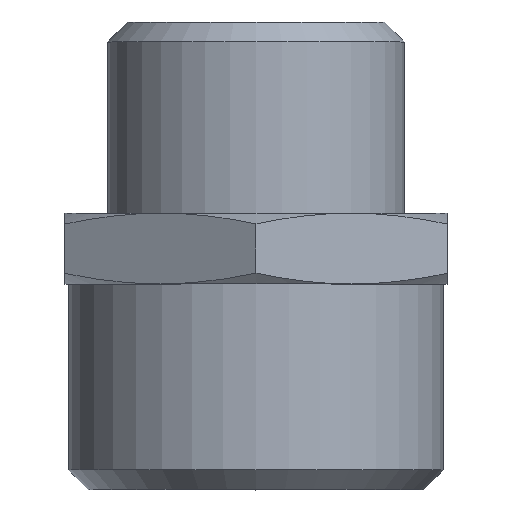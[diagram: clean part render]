
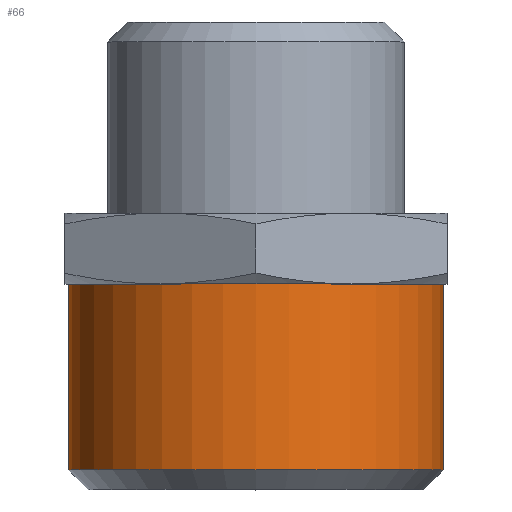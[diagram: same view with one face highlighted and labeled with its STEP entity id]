
A CAD part, top view. The second image highlights one B-rep face of the part: STEP entity #66.
In plain terms, the highlighted cylindrical face has radius 13.22 mm (diameter 26.441 mm), a full revolution.
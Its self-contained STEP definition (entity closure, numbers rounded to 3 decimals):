
#66=ADVANCED_FACE('',(#216,#218),#220,.T.);
#216=FACE_OUTER_BOUND('',#217,.T.);
#217=EDGE_LOOP('',(#994));
#218=FACE_OUTER_BOUND('',#219,.T.);
#219=EDGE_LOOP('',(#995));
#220=CYLINDRICAL_SURFACE('',#221,13.221);
#221=AXIS2_PLACEMENT_3D('',#222,#223,#224);
#222=CARTESIAN_POINT('',(0.,14.5,0.));
#223=DIRECTION('',(0.,-1.,0.));
#224=DIRECTION('',(0.,0.,1.));
#994=ORIENTED_EDGE('',*,*,#1046,.F.);
#995=ORIENTED_EDGE('',*,*,#1074,.F.);
#1046=EDGE_CURVE('',#1098,#1098,#1099,.F.);
#1074=EDGE_CURVE('',#1145,#1145,#1146,.T.);
#1098=VERTEX_POINT('',#1190);
#1099=CIRCLE('',#1191,13.221);
#1145=VERTEX_POINT('',#1918);
#1146=CIRCLE('',#1919,13.221);
#1190=CARTESIAN_POINT('',(0.,14.5,13.221));
#1191=AXIS2_PLACEMENT_3D('',#1192,#1193,#1194);
#1192=CARTESIAN_POINT('',(0.,14.5,0.));
#1193=DIRECTION('',(0.,-1.,0.));
#1194=DIRECTION('',(0.,0.,1.));
#1918=CARTESIAN_POINT('',(0.,1.4,13.221));
#1919=AXIS2_PLACEMENT_3D('',#1920,#1921,#1922);
#1920=CARTESIAN_POINT('',(0.,1.4,0.));
#1921=DIRECTION('',(0.,-1.,0.));
#1922=DIRECTION('',(0.,0.,1.));
